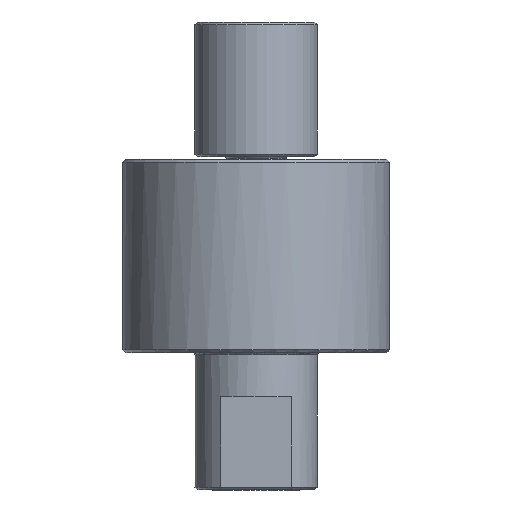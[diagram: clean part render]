
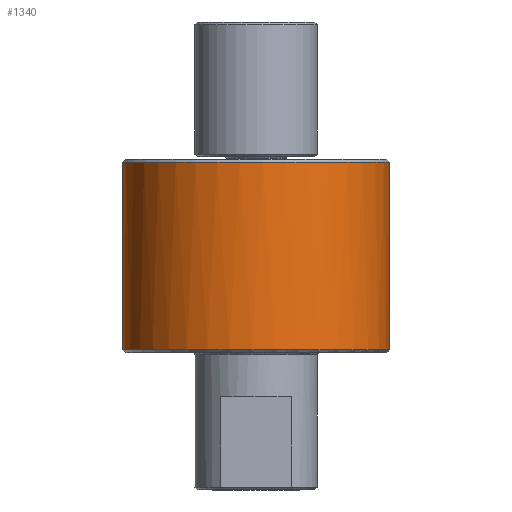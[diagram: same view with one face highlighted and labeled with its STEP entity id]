
A CAD part, left-side view. The second image highlights one B-rep face of the part: STEP entity #1340.
In plain terms, the highlighted cylindrical face has radius 12.7 mm (diameter 25.4 mm), a full revolution.
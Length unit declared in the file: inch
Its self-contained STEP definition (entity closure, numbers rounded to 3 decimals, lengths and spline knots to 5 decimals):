
#117 = B_SPLINE_CURVE_WITH_KNOTS ( 'NONE', 3,
 ( #2299, #5410, #5927, #2828, #6452, #3343, #254, #3865, #786, #4384, #1295, #4907, #1812, #5427, #2325, #5952, #2853, #6473, #3368, #278, #3888, #806, #4411, #1314, #4933, #1832, #5453, #2343, #5977, #2875 ),
 .UNSPECIFIED., .F., .F.,
 ( 4, 2, 2, 2, 2, 2, 2, 2, 2, 2, 2, 2, 2, 2, 4 ),
 ( 0.01106, 0.01152, 0.01198, 0.01244, 0.0129, 0.01382, 0.01428, 0.01474, 0.0152, 0.01566, 0.01612, 0.01658, 0.0175, 0.01796, 0.01842 ),
 .UNSPECIFIED. ) ;
#254 = CARTESIAN_POINT ( 'NONE',  ( 0.49787, -0.04641, 0.38537 ) ) ;
#278 = CARTESIAN_POINT ( 'NONE',  ( 0.49304, -0.08318, 0.26384 ) ) ;
#371 = EDGE_LOOP ( 'NONE', ( #4329, #6107 ) ) ;
#401 = CARTESIAN_POINT ( 'NONE',  ( 0.49914, 0.02987, 0.21713 ) ) ;
#417 = CARTESIAN_POINT ( 'NONE',  ( 0.49135, 0.0926, 0.31712 ) ) ;
#442 = CARTESIAN_POINT ( 'NONE',  ( 0.5, 0.00612, 0.39761 ) ) ;
#534 = CARTESIAN_POINT ( 'NONE',  ( 0.5, 0., 0.21239 ) ) ;
#558 = AXIS2_PLACEMENT_3D ( 'NONE', #1239, #4375, #3856 ) ;
#652 = B_SPLINE_CURVE_WITH_KNOTS ( 'NONE', 3,
 ( #6066, #2437, #6583, #3479, #401, #3996, #913, #4522, #1431, #5043, #1944, #5567, #2462, #6088, #2990, #6607, #3507, #417, #4019, #937, #4542, #1448, #5068, #1965, #5594, #2482, #6111, #3011, #6626, #3527, #442, #4041 ),
 .UNSPECIFIED., .F., .F.,
 ( 4, 2, 2, 2, 2, 2, 2, 2, 2, 2, 2, 2, 2, 2, 2, 4 ),
 ( 0.00369, 0.00415, 0.00461, 0.00507, 0.00553, 0.00599, 0.00645, 0.00691, 0.00737, 0.00829, 0.00875, 0.00921, 0.00967, 0.01013, 0.01059, 0.01106 ),
 .UNSPECIFIED. ) ;
#699 = CYLINDRICAL_SURFACE ( 'NONE', #558, 0.5 ) ;
#782 = DIRECTION ( 'NONE',  ( 0., 0., -1. ) ) ;
#786 = CARTESIAN_POINT ( 'NONE',  ( 0.49626, -0.06122, 0.37474 ) ) ;
#806 = CARTESIAN_POINT ( 'NONE',  ( 0.49456, -0.0736, 0.24848 ) ) ;
#851 = FACE_BOUND ( 'NONE', #371, .T. ) ;
#913 = CARTESIAN_POINT ( 'NONE',  ( 0.49786, 0.0465, 0.22469 ) ) ;
#937 = CARTESIAN_POINT ( 'NONE',  ( 0.49303, 0.08323, 0.34606 ) ) ;
#1239 = CARTESIAN_POINT ( 'NONE',  ( 0., 0., 0.59 ) ) ;
#1277 = EDGE_CURVE ( 'NONE', #1632, #1632, #2533, .T. ) ;
#1295 = CARTESIAN_POINT ( 'NONE',  ( 0.49343, -0.0809, 0.35166 ) ) ;
#1314 = CARTESIAN_POINT ( 'NONE',  ( 0.49683, -0.05691, 0.23095 ) ) ;
#1340 = ADVANCED_FACE ( 'NONE', ( #4966, #851, #6182 ), #699, .T. ) ;
#1431 = CARTESIAN_POINT ( 'NONE',  ( 0.49626, 0.0612, 0.23523 ) ) ;
#1448 = CARTESIAN_POINT ( 'NONE',  ( 0.49457, 0.07359, 0.36155 ) ) ;
#1632 = VERTEX_POINT ( 'NONE', #2322 ) ;
#1812 = CARTESIAN_POINT ( 'NONE',  ( 0.4919, -0.08963, 0.32908 ) ) ;
#1832 = CARTESIAN_POINT ( 'NONE',  ( 0.49914, -0.02988, 0.21714 ) ) ;
#1944 = CARTESIAN_POINT ( 'NONE',  ( 0.49456, 0.07363, 0.24852 ) ) ;
#1965 = CARTESIAN_POINT ( 'NONE',  ( 0.49626, 0.06123, 0.37474 ) ) ;
#2178 = EDGE_CURVE ( 'NONE', #5211, #3767, #117, .T. ) ;
#2288 = CARTESIAN_POINT ( 'NONE',  ( 0., 0., 0.66 ) ) ;
#2299 = CARTESIAN_POINT ( 'NONE',  ( 0.5, 0., 0.39761 ) ) ;
#2322 = CARTESIAN_POINT ( 'NONE',  ( 0.06151, 0.4962, 0.66 ) ) ;
#2325 = CARTESIAN_POINT ( 'NONE',  ( 0.49135, -0.09261, 0.31107 ) ) ;
#2343 = CARTESIAN_POINT ( 'NONE',  ( 0.49989, -0.01207, 0.21298 ) ) ;
#2353 = VERTEX_POINT ( 'NONE', #3904 ) ;
#2437 = CARTESIAN_POINT ( 'NONE',  ( 0.5, 0.00605, 0.21239 ) ) ;
#2462 = CARTESIAN_POINT ( 'NONE',  ( 0.49303, 0.08324, 0.26396 ) ) ;
#2482 = CARTESIAN_POINT ( 'NONE',  ( 0.49786, 0.04644, 0.38535 ) ) ;
#2533 = CIRCLE ( 'NONE', #5522, 0.5 ) ;
#2820 = DIRECTION ( 'NONE',  ( 0.123, 0.992, 0. ) ) ;
#2828 = CARTESIAN_POINT ( 'NONE',  ( 0.49946, -0.024, 0.39465 ) ) ;
#2853 = CARTESIAN_POINT ( 'NONE',  ( 0.49147, -0.09199, 0.29278 ) ) ;
#2875 = CARTESIAN_POINT ( 'NONE',  ( 0.5, 0., 0.21239 ) ) ;
#2882 = EDGE_CURVE ( 'NONE', #3767, #5211, #652, .T. ) ;
#2990 = CARTESIAN_POINT ( 'NONE',  ( 0.4919, 0.08963, 0.28093 ) ) ;
#3011 = CARTESIAN_POINT ( 'NONE',  ( 0.49914, 0.02989, 0.39286 ) ) ;
#3050 = ORIENTED_EDGE ( 'NONE', *, *, #1277, .T. ) ;
#3343 = CARTESIAN_POINT ( 'NONE',  ( 0.49834, -0.04109, 0.38821 ) ) ;
#3368 = CARTESIAN_POINT ( 'NONE',  ( 0.49223, -0.08784, 0.27504 ) ) ;
#3479 = CARTESIAN_POINT ( 'NONE',  ( 0.49945, 0.02409, 0.21538 ) ) ;
#3507 = CARTESIAN_POINT ( 'NONE',  ( 0.49135, 0.09261, 0.29897 ) ) ;
#3527 = CARTESIAN_POINT ( 'NONE',  ( 0.49989, 0.01218, 0.397 ) ) ;
#3767 = VERTEX_POINT ( 'NONE', #534 ) ;
#3856 = DIRECTION ( 'NONE',  ( 0.123, 0.992, 0. ) ) ;
#3861 = CARTESIAN_POINT ( 'NONE',  ( 0., 0., -0.044 ) ) ;
#3865 = CARTESIAN_POINT ( 'NONE',  ( 0.49683, -0.05648, 0.37864 ) ) ;
#3888 = CARTESIAN_POINT ( 'NONE',  ( 0.49352, -0.08033, 0.25853 ) ) ;
#3904 = CARTESIAN_POINT ( 'NONE',  ( 0., 0.5, -0.044 ) ) ;
#3996 = CARTESIAN_POINT ( 'NONE',  ( 0.49834, 0.0411, 0.22179 ) ) ;
#4019 = CARTESIAN_POINT ( 'NONE',  ( 0.49183, 0.09016, 0.32934 ) ) ;
#4041 = CARTESIAN_POINT ( 'NONE',  ( 0.5, 0., 0.39761 ) ) ;
#4089 = EDGE_LOOP ( 'NONE', ( #3050 ) ) ;
#4243 = EDGE_LOOP ( 'NONE', ( #5873 ) ) ;
#4329 = ORIENTED_EDGE ( 'NONE', *, *, #2882, .F. ) ;
#4375 = DIRECTION ( 'NONE',  ( 0., 0., -1. ) ) ;
#4379 = DIRECTION ( 'NONE',  ( 0., 1., 0. ) ) ;
#4384 = CARTESIAN_POINT ( 'NONE',  ( 0.49457, -0.074, 0.36197 ) ) ;
#4411 = CARTESIAN_POINT ( 'NONE',  ( 0.49514, -0.0697, 0.24373 ) ) ;
#4522 = CARTESIAN_POINT ( 'NONE',  ( 0.49682, 0.05651, 0.23139 ) ) ;
#4542 = CARTESIAN_POINT ( 'NONE',  ( 0.49352, 0.08034, 0.35146 ) ) ;
#4907 = CARTESIAN_POINT ( 'NONE',  ( 0.49223, -0.08784, 0.33495 ) ) ;
#4933 = CARTESIAN_POINT ( 'NONE',  ( 0.49795, -0.04659, 0.22407 ) ) ;
#4966 = FACE_OUTER_BOUND ( 'NONE', #4089, .T. ) ;
#4969 = CARTESIAN_POINT ( 'NONE',  ( 0.5, 0., 0.39761 ) ) ;
#5043 = CARTESIAN_POINT ( 'NONE',  ( 0.49512, 0.06981, 0.24385 ) ) ;
#5068 = CARTESIAN_POINT ( 'NONE',  ( 0.49513, 0.06976, 0.3662 ) ) ;
#5211 = VERTEX_POINT ( 'NONE', #4969 ) ;
#5356 = AXIS2_PLACEMENT_3D ( 'NONE', #3861, #782, #4379 ) ;
#5410 = CARTESIAN_POINT ( 'NONE',  ( 0.5, -0.00612, 0.39761 ) ) ;
#5427 = CARTESIAN_POINT ( 'NONE',  ( 0.49146, -0.09201, 0.31713 ) ) ;
#5453 = CARTESIAN_POINT ( 'NONE',  ( 0.49946, -0.02403, 0.21536 ) ) ;
#5522 = AXIS2_PLACEMENT_3D ( 'NONE', #2288, #5913, #2820 ) ;
#5567 = CARTESIAN_POINT ( 'NONE',  ( 0.49352, 0.08033, 0.25854 ) ) ;
#5594 = CARTESIAN_POINT ( 'NONE',  ( 0.49683, 0.05647, 0.37864 ) ) ;
#5873 = ORIENTED_EDGE ( 'NONE', *, *, #6604, .F. ) ;
#5913 = DIRECTION ( 'NONE',  ( 0., 0., -1. ) ) ;
#5927 = CARTESIAN_POINT ( 'NONE',  ( 0.49989, -0.01214, 0.39701 ) ) ;
#5952 = CARTESIAN_POINT ( 'NONE',  ( 0.49135, -0.0926, 0.29881 ) ) ;
#5977 = CARTESIAN_POINT ( 'NONE',  ( 0.5, -0.00605, 0.21239 ) ) ;
#6066 = CARTESIAN_POINT ( 'NONE',  ( 0.5, 0., 0.21239 ) ) ;
#6088 = CARTESIAN_POINT ( 'NONE',  ( 0.49222, 0.08787, 0.27516 ) ) ;
#6093 = CIRCLE ( 'NONE', #5356, 0.5 ) ;
#6107 = ORIENTED_EDGE ( 'NONE', *, *, #2178, .F. ) ;
#6111 = CARTESIAN_POINT ( 'NONE',  ( 0.49834, 0.04113, 0.3882 ) ) ;
#6182 = FACE_OUTER_BOUND ( 'NONE', #4243, .T. ) ;
#6452 = CARTESIAN_POINT ( 'NONE',  ( 0.49914, -0.0299, 0.39285 ) ) ;
#6473 = CARTESIAN_POINT ( 'NONE',  ( 0.4919, -0.08963, 0.28093 ) ) ;
#6583 = CARTESIAN_POINT ( 'NONE',  ( 0.49989, 0.01221, 0.213 ) ) ;
#6604 = EDGE_CURVE ( 'NONE', #2353, #2353, #6093, .T. ) ;
#6607 = CARTESIAN_POINT ( 'NONE',  ( 0.49146, 0.092, 0.29283 ) ) ;
#6626 = CARTESIAN_POINT ( 'NONE',  ( 0.49946, 0.02403, 0.39464 ) ) ;
